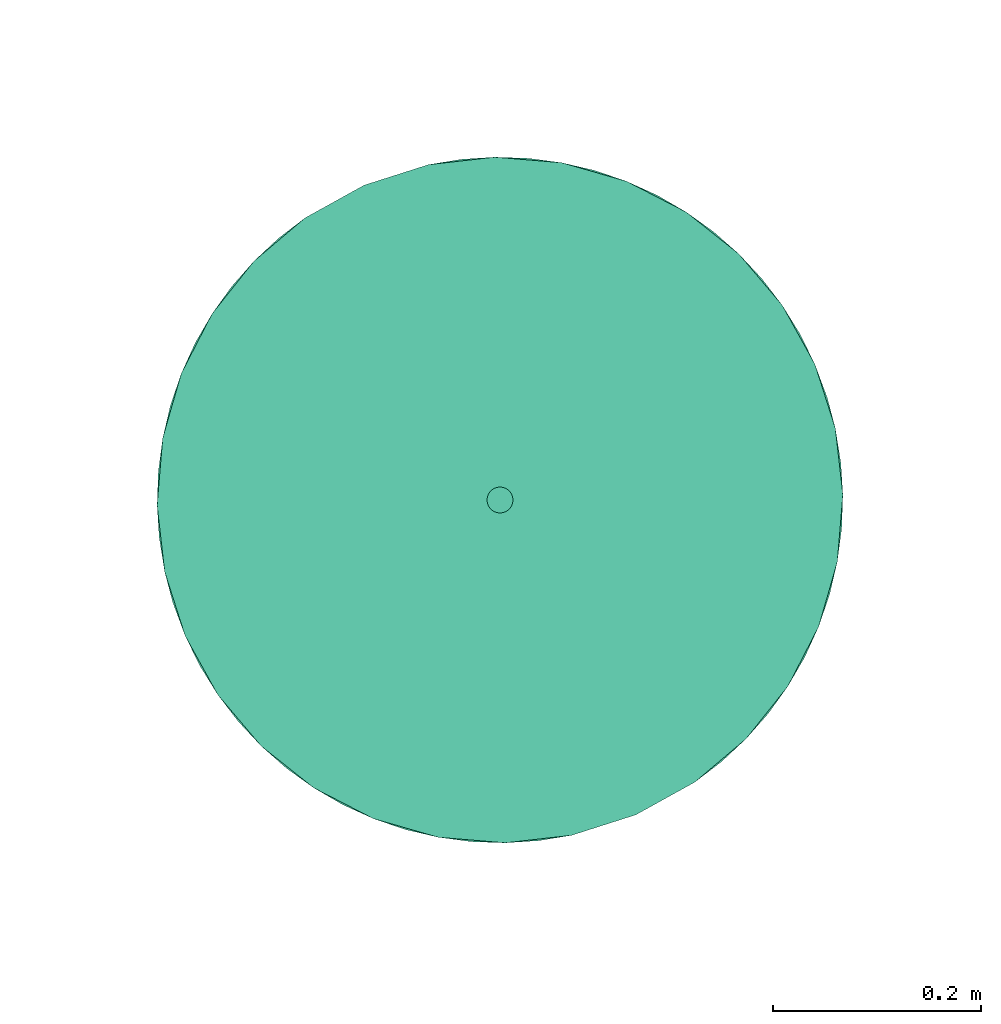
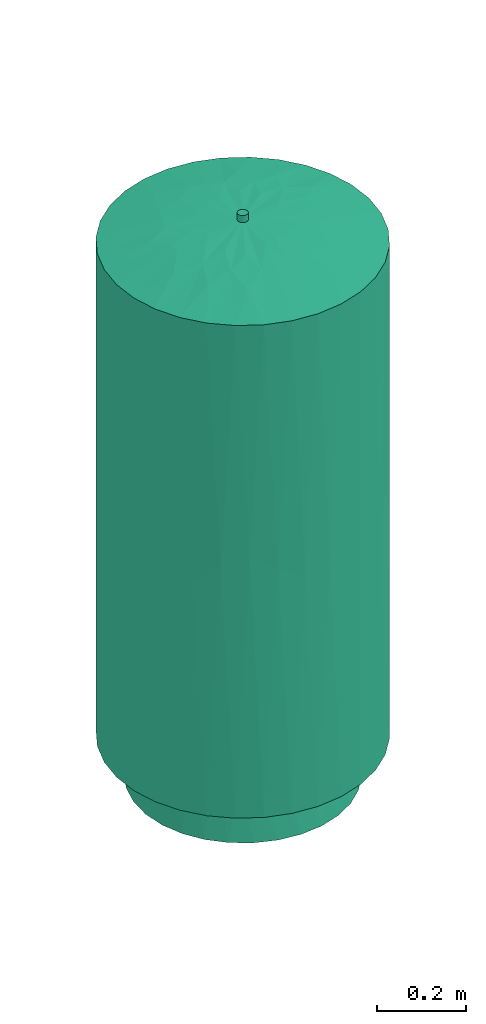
# One storey, part 25 of 26: 1 tank.
"""IFC4 building model written with IfcOpenShell, lengths in metres."""

from ifc_helpers import new_model, entity, si_unit, converted_unit, derived_unit, direction, frame, origin, place, context, subcontext, project, spatial, polygons, source, transform, mapped, material, type_object, type_shapes, element, save


model = new_model("IFC4")

# Units and contexts
model_context = context("Model", 3, precision=1e-05, world=origin(), true_north=direction((6.12323399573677e-17, 1.0)))
body_context = subcontext(model_context, "Body", "Model", "MODEL_VIEW")
ifc_project = project(units=[si_unit("LENGTHUNIT", "METRE"), si_unit("AREAUNIT", "SQUARE_METRE"), si_unit("VOLUMEUNIT", "CUBIC_METRE"), si_unit("PRESSUREUNIT", "PASCAL"), derived_unit("VOLUMETRICFLOWRATEUNIT", [(si_unit("LENGTHUNIT", "METRE", prefix="DECI"), 3), (si_unit("TIMEUNIT", "SECOND"), -1)]), converted_unit("PLANEANGLEUNIT", "DEGREE", entity("IfcPlaneAngleMeasure", 0.0174532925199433), si_unit("PLANEANGLEUNIT", "RADIAN"), dimensions=[0, 0, 0, 0, 0, 0, 0])], contexts=[model_context])

# Site, building, storey
site_placement = place(None, origin())
site = spatial("IfcSite", under=ifc_project, at=site_placement, Name="Default", CompositionType="ELEMENT")
building_placement = place(site_placement, frame((24.575451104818, -55.896759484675, 317.15), z_axis=(0.0, 0.0, 1.0), x_axis=(-0.396377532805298, 0.918087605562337, 0.0)))
building = spatial("IfcBuilding", under=site, at=building_placement, CompositionType="ELEMENT")
storey_placement = place(building_placement, origin())
storey = spatial("IfcBuildingStorey", under=building, at=storey_placement, Name="Nivel 1", CompositionType="ELEMENT", Elevation=0.0)

# Tank
ifc_material = material(Name="<Unnamed>")
tank_type = type_object("IfcTankType", Name="M_Vaso de expansión - Independiente - Vertical:452 L", PredefinedType="EXPANSION", material=ifc_material)
shared_shape = source(origin(), body_context, "Body", "Tessellation", [
    polygons([(-0.0124999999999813, -2.52483636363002e-14, 1.54155), (-0.0120740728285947, -0.00323523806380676, 1.54155), (-0.0108253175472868, -0.00625000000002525, 1.54155), (-0.0088388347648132, -0.0088388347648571, 1.54155), (-0.00624999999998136, -0.0108253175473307, 1.54155), (-0.00323523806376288, -0.0120740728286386, 1.54155), (1.86223536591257e-14, -0.0125000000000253, 1.54155), (0.00323523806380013, -0.0120740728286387, 1.54155), (0.00625000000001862, -0.0108253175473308, 1.54155), (0.00883883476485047, -0.00883883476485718, 1.54155), (0.0108253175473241, -0.00625000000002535, 1.54155), (0.012074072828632, -0.00323523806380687, 1.54155), (0.0125000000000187, -2.5288752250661e-14, 1.54155), (0.012074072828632, 0.00323523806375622, 1.54155), (0.0108253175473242, 0.00624999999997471, 1.54155), (0.00883883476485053, 0.00883883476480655, 1.54155), (0.00625000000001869, 0.0108253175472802, 1.54155), (0.0032352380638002, 0.0120740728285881, 1.54155), (1.86963777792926e-14, 0.0124999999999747, 1.54155), (-0.00323523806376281, 0.0120740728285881, 1.54155), (-0.0062499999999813, 0.0108253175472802, 1.54155), (-0.00883883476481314, 0.00883883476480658, 1.54155), (-0.0108253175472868, 0.00624999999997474, 1.54155), (-0.0120740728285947, 0.00323523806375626, 1.54155), (-0.0124999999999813, -2.52483636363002e-14, 1.5224166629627), (-0.0120740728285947, -0.00323523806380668, 1.5224166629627), (-0.0108253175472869, -0.00625000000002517, 1.5224166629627), (-0.00883883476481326, -0.00883883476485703, 1.5224166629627), (-0.00624999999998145, -0.0108253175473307, 1.5224166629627), (-0.00323523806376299, -0.0120740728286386, 1.5224166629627), (1.85106425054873e-14, -0.0125000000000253, 1.5224166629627), (0.00323523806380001, -0.0120740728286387, 1.5224166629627), (0.0062500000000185, -0.0108253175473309, 1.5224166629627), (0.00883883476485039, -0.00883883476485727, 1.5224166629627), (0.0108253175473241, -0.00625000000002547, 1.5224166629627), (0.012074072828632, -0.00323523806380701, 1.5224166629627), (0.0125000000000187, -2.53695294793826e-14, 1.5224166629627), (0.012074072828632, 0.00323523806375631, 1.5224166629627), (0.0108253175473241, 0.00624999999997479, 1.5224166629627), (0.00883883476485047, 0.00883883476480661, 1.5224166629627), (0.00625000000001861, 0.0108253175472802, 1.5224166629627), (0.00323523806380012, 0.0120740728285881, 1.5224166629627), (1.86080730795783e-14, 0.0124999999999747, 1.5224166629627), (-0.00323523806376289, 0.012074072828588, 1.5224166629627), (-0.00624999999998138, 0.0108253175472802, 1.5224166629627), (-0.00883883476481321, 0.00883883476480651, 1.5224166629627), (-0.0108253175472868, 0.00624999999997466, 1.5224166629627), (-0.0120740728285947, 0.00323523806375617, 1.5224166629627), (-0.329999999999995, -9.98519578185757e-15, 0.112500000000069), (-0.323659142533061, 0.0643798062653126, 0.11250000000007), (-0.30488024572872, 0.12628553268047, 0.112500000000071), (-0.274384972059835, 0.183338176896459, 0.112500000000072), (-0.233345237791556, 0.233345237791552, 0.112500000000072), (-0.183338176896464, 0.274384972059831, 0.112500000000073), (-0.126285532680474, 0.304880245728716, 0.112500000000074), (-0.0643798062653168, 0.323659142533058, 0.112500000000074), (5.72719588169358e-15, 0.329999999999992, 0.112500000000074), (0.0643798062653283, 0.323659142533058, 0.112500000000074), (0.126285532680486, 0.304880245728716, 0.112500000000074), (0.183338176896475, 0.274384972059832, 0.112500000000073), (0.233345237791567, 0.233345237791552, 0.112500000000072), (0.274384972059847, 0.18333817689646, 0.112500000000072), (0.304880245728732, 0.126285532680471, 0.112500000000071), (0.323659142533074, 0.0643798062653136, 0.11250000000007), (0.330000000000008, -8.91893636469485e-15, 0.112500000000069), (0.290115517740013, -8.85447077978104e-15, 0.0985185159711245), (0.24964141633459, -8.81696402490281e-15, 0.0863488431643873), (0.248072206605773, 0.027946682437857, 0.0863488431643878), (0.243383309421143, 0.055546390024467, 0.0863488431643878), (0.235633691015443, 0.0824475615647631, 0.0863488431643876), (0.224920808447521, 0.108311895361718, 0.086348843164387), (0.211379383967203, 0.132814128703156, 0.0863488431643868), (0.195179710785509, 0.155646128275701, 0.0863488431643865), (0.176525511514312, 0.176520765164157, 0.0863488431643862), (0.155651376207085, 0.19517552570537, 0.0863488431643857), (0.132819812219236, 0.211375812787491, 0.0863488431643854), (0.108317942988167, 0.224917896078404, 0.0863488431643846), (0.0824538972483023, 0.235631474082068, 0.0863488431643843), (0.0555529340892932, 0.243381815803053, 0.0863488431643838), (0.0279533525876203, 0.248071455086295, 0.0863488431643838), (2.23745092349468e-06, 0.24964141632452, 0.0863488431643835), (-0.0279489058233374, 0.248071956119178, 0.086348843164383), (-0.0555485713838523, 0.243382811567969, 0.0863488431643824), (-0.0824496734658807, 0.235632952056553, 0.0863488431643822), (-0.108313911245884, 0.224919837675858, 0.0863488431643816), (-0.132816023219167, 0.211378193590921, 0.0863488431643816), (-0.155647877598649, 0.195178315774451, 0.0863488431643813), (-0.176522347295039, 0.176523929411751, 0.0863488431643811), (-0.195176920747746, 0.155649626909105, 0.0863488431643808), (-0.211377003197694, 0.132817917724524, 0.0863488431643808), (-0.224918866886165, 0.108315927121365, 0.0863488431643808), (-0.235632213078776, 0.0824517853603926, 0.0863488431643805), (-0.24338231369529, 0.0555507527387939, 0.0863488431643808), (-0.248071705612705, 0.0279511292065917, 0.0863488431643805), (-0.249641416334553, -9.62357769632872e-15, 0.0863488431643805), (-0.290115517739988, -9.79185987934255e-15, 0.0985185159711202), (-0.0806030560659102, 0.279787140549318, 0.0988610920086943), (-0.254835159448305, 0.140843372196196, 0.0988611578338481), (-0.279786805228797, 0.0806056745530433, 0.0988612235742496), (-0.140841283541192, 0.254836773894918, 0.0988612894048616), (0.254838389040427, 0.140839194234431, 0.0988614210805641), (0.279787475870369, 0.0806004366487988, 0.0988609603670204), (0.140845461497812, 0.254833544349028, 0.0988610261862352), (0.080608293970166, 0.279786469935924, 0.0988613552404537), (-0.0162643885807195, 0.289658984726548, 0.0985184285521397), (-0.216321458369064, 0.193318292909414, 0.0985184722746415), (0.193320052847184, 0.216319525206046, 0.0985183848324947), (0.323659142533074, -0.0643798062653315, 0.112500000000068), (0.304880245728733, -0.126285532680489, 0.112500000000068), (0.274384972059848, -0.183338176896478, 0.112500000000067), (0.233345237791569, -0.233345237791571, 0.112500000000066), (0.183338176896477, -0.27438497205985, 0.112500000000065), (0.126285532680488, -0.304880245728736, 0.112500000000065), (0.0643798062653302, -0.323659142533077, 0.112500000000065), (7.4933411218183e-15, -0.330000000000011, 0.112500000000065), (-0.0643798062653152, -0.323659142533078, 0.112500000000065), (-0.126285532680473, -0.304880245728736, 0.112500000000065), (-0.183338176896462, -0.274384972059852, 0.112500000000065), (-0.233345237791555, -0.233345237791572, 0.112500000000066), (-0.274384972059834, -0.18333817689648, 0.112500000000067), (-0.304880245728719, -0.126285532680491, 0.112500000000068), (-0.323659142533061, -0.0643798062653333, 0.112500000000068), (-0.248071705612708, -0.0279511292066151, 0.0863488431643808), (-0.243382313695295, -0.0555507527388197, 0.0863488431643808), (-0.235632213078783, -0.0824517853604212, 0.0863488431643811), (-0.224918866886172, -0.108315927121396, 0.0863488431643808), (-0.211377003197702, -0.132817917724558, 0.0863488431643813), (-0.195176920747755, -0.155649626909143, 0.0863488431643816), (-0.176522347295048, -0.176523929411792, 0.0863488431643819), (-0.155647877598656, -0.195178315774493, 0.0863488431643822), (-0.132816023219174, -0.211378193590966, 0.0863488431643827), (-0.10831391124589, -0.224919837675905, 0.0863488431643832), (-0.0824496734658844, -0.235632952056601, 0.0863488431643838), (-0.0555485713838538, -0.243382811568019, 0.086348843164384), (-0.0279489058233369, -0.248071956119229, 0.0863488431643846), (2.23745092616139e-06, -0.24964141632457, 0.0863488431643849), (0.0279533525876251, -0.248071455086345, 0.0863488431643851), (0.0555529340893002, -0.243381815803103, 0.0863488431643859), (0.0824538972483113, -0.235631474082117, 0.0863488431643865), (0.108317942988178, -0.224917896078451, 0.0863488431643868), (0.132819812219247, -0.211375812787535, 0.086348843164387), (0.155651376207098, -0.195175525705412, 0.0863488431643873), (0.176525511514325, -0.176520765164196, 0.0863488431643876), (0.195179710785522, -0.155646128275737, 0.0863488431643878), (0.211379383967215, -0.132814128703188, 0.0863488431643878), (0.224920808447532, -0.108311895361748, 0.0863488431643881), (0.235633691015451, -0.0824475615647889, 0.0863488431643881), (0.243383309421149, -0.0555463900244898, 0.0863488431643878), (0.248072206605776, -0.0279466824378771, 0.0863488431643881), (0.0806082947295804, -0.279786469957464, 0.0988613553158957), (0.254838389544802, -0.140839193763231, 0.0988614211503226), (0.279787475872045, -0.0806004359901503, 0.09886096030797), (0.140845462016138, -0.254833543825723, 0.0988610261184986), (-0.140841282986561, -0.254836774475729, 0.098861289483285), (-0.0806030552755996, -0.27978714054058, 0.0988610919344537), (-0.279786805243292, -0.0806056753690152, 0.0988612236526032), (-0.254835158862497, -0.140843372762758, 0.0988611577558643), (0.016269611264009, -0.289659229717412, 0.0985186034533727), (0.216325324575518, -0.19331477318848, 0.098518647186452), (-0.216321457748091, -0.193318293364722, 0.0985184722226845), (0.330000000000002, -2.7586730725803e-14, 1.46250000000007), (0.323659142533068, 0.0643798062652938, 1.46250000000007), (0.304880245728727, 0.12628553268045, 1.46250000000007), (0.274384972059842, 0.183338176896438, 1.46250000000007), (0.233345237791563, 0.23334523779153, 1.46250000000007), (0.183338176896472, 0.274384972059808, 1.46250000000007), (0.126285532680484, 0.304880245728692, 1.46250000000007), (0.0643798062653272, 0.323659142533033, 1.46250000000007), (5.72719588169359e-15, 0.329999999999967, 1.46250000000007), (-0.0643798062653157, 0.323659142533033, 1.46250000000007), (-0.126285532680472, 0.304880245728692, 1.46250000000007), (-0.18333817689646, 0.274384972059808, 1.46250000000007), (-0.233345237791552, 0.233345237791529, 1.46250000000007), (-0.27438497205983, 0.183338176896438, 1.46250000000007), (-0.304880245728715, 0.126285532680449, 1.46250000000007), (-0.323659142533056, 0.0643798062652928, 1.46250000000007), (-0.32999999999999, -2.86529901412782e-14, 1.46250000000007), (-0.252872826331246, -2.90021778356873e-14, 1.4877522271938), (-0.173850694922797, -2.92578195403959e-14, 1.50623948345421), (-0.0935257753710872, -2.94179995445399e-14, 1.51782323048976), (0.0935257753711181, -2.91158094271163e-14, 1.51782323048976), (0.173850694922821, -2.86960924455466e-14, 1.5062394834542), (0.252872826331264, -2.81851231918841e-14, 1.48775222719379), (-0.134388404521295, 0.110289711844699, 1.50623948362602), (-0.0170403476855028, 0.173013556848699, 1.50623948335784), (0.134388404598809, 0.110289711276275, 1.50623948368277), (-0.0833779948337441, 0.155989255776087, 1.50566373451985), (0.0833779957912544, 0.155989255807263, 1.50566373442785), (-0.190538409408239, 0.0577991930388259, 1.50111168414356), (0.19053840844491, 0.0577991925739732, 1.50111168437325), (0.0155006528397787, 0.117739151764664, 1.51494810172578), (0.0241718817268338, 0.228587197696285, 1.49388385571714), (0.0516524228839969, 0.175861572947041, 1.50440795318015), (0.0349293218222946, 0.0883415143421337, 1.51767463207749), (-0.0939781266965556, 0.0389270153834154, 1.51696515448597), (-0.114215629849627, 0.0225170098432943, 1.51524406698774), (-0.162410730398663, 0.0866658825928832, 1.50424862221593), (0.0939781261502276, 0.0389270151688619, 1.51696515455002), (0.1142156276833, 0.0225170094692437, 1.51524406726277), (0.162410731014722, 0.0866658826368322, 1.50424862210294), (-0.148220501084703, 0.179877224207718, 1.49306448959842), (-0.0820068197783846, 0.1002443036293, 1.51351074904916), (-0.035256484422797, 0.115451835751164, 1.51469570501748), (-0.0657014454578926, 0.218000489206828, 1.49443133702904), (0.0724317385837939, 0.0886320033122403, 1.51548603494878), (0.137618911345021, 0.167206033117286, 1.49714550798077), (-0.323659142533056, -0.0643798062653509, 1.46250000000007), (-0.304880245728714, -0.126285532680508, 1.46250000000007), (-0.27438497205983, -0.183338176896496, 1.46250000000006), (-0.233345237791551, -0.233345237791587, 1.46250000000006), (-0.183338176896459, -0.274384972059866, 1.46250000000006), (-0.126285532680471, -0.30488024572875, 1.46250000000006), (-0.0643798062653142, -0.323659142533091, 1.46250000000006), (7.49334112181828e-15, -0.330000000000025, 1.46250000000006), (0.0643798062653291, -0.323659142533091, 1.46250000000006), (0.126285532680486, -0.304880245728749, 1.46250000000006), (0.183338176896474, -0.274384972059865, 1.46250000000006), (0.233345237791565, -0.233345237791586, 1.46250000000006), (0.274384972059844, -0.183338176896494, 1.46250000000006), (0.304880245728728, -0.126285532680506, 1.46250000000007), (0.323659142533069, -0.0643798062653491, 1.46250000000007), (0.134388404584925, -0.110289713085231, 1.50623948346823), (0.0170403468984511, -0.173013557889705, 1.5062394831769), (-0.134388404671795, -0.110289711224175, 1.50623948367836), (0.0833779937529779, -0.155989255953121, 1.50566373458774), (-0.0833779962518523, -0.155989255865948, 1.5056637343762), (0.190538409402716, -0.0577991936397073, 1.5011116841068), (-0.190538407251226, -0.0577991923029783, 1.50111168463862), (-0.015500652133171, -0.117739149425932, 1.51494810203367), (-0.0241718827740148, -0.228587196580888, 1.49388385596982), (-0.0516524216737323, -0.175861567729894, 1.50440795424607), (-0.0349293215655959, -0.088341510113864, 1.5176746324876), (0.093978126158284, -0.0389270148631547, 1.51696515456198), (0.114215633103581, -0.0225170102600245, 1.51524406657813), (0.162410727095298, -0.0866658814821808, 1.50424862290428), (-0.0939781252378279, -0.0389270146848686, 1.51696515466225), (-0.114215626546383, -0.0225170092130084, 1.51524406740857), (-0.16241073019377, -0.0866658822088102, 1.50424862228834), (0.148220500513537, -0.179877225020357, 1.49306448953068), (0.0820068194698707, -0.100244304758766, 1.51351074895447), (0.0352564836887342, -0.115451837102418, 1.51469570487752), (0.065701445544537, -0.218000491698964, 1.4944313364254), (-0.0724317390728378, -0.0886320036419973, 1.5154860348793), (-0.137618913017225, -0.167206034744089, 1.49714550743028), (-0.31579031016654, 0.095793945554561, 0.78750000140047), (-0.15556092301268, 0.291034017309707, 0.787500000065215), (-0.255093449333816, 0.209349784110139, 0.78750000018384), (-0.0323456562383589, 0.328410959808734, 0.787499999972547), (0.155560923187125, 0.291034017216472, 0.78750000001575), (0.315790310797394, 0.0957939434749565, 0.787500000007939), (0.255093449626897, 0.209349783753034, 0.787500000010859), (-0.209349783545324, 0.255093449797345, 0.826616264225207), (-0.291034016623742, 0.155560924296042, 0.748383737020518), (-0.0957939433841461, 0.315790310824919, 0.748383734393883), (0.291034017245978, 0.155560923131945, 0.826616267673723), (0.209349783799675, 0.255093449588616, 0.748383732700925), (-0.32999999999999, -1.93190929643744e-14, 0.787500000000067), (0.0344583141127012, 0.328196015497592, 0.787500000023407), (0.0968095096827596, 0.315480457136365, 0.83313564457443), (0.330000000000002, -1.82528335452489e-14, 0.787500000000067), (0.315790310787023, -0.0957939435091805, 0.787500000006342), (0.155560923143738, -0.291034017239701, 0.787500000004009), (0.255093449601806, -0.209349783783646, 0.787500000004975), (0.0323456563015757, -0.328410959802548, 0.787499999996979), (-0.155560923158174, -0.291034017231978, 0.787500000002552), (-0.315790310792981, -0.0957939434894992, 0.787500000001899), (-0.255093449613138, -0.209349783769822, 0.787500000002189), (0.209349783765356, -0.25509344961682, 0.826616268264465), (0.291034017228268, -0.155560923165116, 0.748383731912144), (0.0957939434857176, -0.315790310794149, 0.748383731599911), (-0.291034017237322, -0.155560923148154, 0.826616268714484), (-0.209349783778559, -0.255093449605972, 0.748383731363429), (-0.0344583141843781, -0.328196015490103, 0.787500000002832), (-0.0968095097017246, -0.315480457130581, 0.833135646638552), (-0.266499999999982, -2.614772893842e-14, -3.29325740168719e-14), (-0.260676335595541, 0.0554084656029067, -3.29325740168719e-14), (-0.243459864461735, 0.108395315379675, -3.29325740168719e-14), (-0.215603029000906, 0.156644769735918, -3.29325740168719e-14), (-0.178323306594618, 0.1980480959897, -3.29325740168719e-14), (-0.133249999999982, 0.230795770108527, -3.29325740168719e-14), (-0.0823530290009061, 0.253456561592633, -3.29325740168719e-14), (-0.0278568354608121, 0.26504008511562, -3.29325740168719e-14), (0.0278568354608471, 0.26504008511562, -3.29325740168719e-14), (0.0823530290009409, 0.253456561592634, -3.29325740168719e-14), (0.133250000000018, 0.230795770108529, -3.29325740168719e-14), (0.178323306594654, 0.198048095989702, -3.29325740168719e-14), (0.215603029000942, 0.15664476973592, -3.29325740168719e-14), (0.243459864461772, 0.108395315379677, -3.29325740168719e-14), (0.260676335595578, 0.0554084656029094, -3.29325740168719e-14), (0.266500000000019, -2.52866436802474e-14, -3.29325740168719e-14), (0.260676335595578, -0.0554084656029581, -3.29325740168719e-14), (0.243459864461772, -0.108395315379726, -3.29325740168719e-14), (0.215603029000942, -0.156644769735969, -3.29325740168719e-14), (0.178323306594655, -0.198048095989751, -3.29325740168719e-14), (0.133250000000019, -0.230795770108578, -3.29325740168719e-14), (0.0823530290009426, -0.253456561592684, -3.29325740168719e-14), (0.0278568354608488, -0.26504008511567, -3.29325740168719e-14), (-0.0278568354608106, -0.265040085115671, -3.29325740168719e-14), (-0.0823530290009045, -0.253456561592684, -3.29325740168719e-14), (-0.133249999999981, -0.230795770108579, -3.29325740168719e-14), (-0.178323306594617, -0.198048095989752, -3.29325740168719e-14), (-0.215603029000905, -0.15664476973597, -3.29325740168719e-14), (-0.243459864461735, -0.108395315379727, -3.29325740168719e-14), (-0.260676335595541, -0.055408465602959, -3.29325740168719e-14)], [[[8, 9, 10, 11, 12, 13, 14, 15, 16, 17, 18, 19, 20, 21, 22, 23, 24, 1, 2, 3, 4, 5, 6, 7]], [[26, 27, 3, 2]], [[25, 26, 2, 1]], [[29, 30, 6, 5]], [[28, 29, 5, 4]], [[27, 28, 4, 3]], [[7, 6, 30, 31]], [[33, 34, 10, 9]], [[32, 33, 9, 8]], [[36, 37, 13, 12]], [[35, 36, 12, 11]], [[34, 35, 11, 10]], [[32, 8, 7, 31]], [[38, 39, 15, 14]], [[37, 38, 14, 13]], [[41, 42, 18, 17]], [[40, 41, 17, 16]], [[39, 40, 16, 15]], [[19, 18, 42, 43]], [[22, 21, 45, 46]], [[21, 20, 44, 45]], [[24, 23, 47, 48]], [[46, 47, 23, 22]], [[1, 24, 48, 25]], [[44, 20, 19, 43]], [[92, 93, 99]], [[52, 53, 106]], [[96, 49, 50]], [[96, 50, 99]], [[106, 98, 52]], [[57, 105, 56]], [[105, 97, 56]], [[100, 85, 86]], [[105, 83, 97]], [[103, 104, 59]], [[100, 106, 54]], [[105, 81, 82]], [[84, 97, 83]], [[99, 98, 91, 92]], [[91, 98, 90]], [[94, 95, 96]], [[94, 96, 99]], [[61, 62, 107]], [[99, 93, 94]], [[105, 82, 83]], [[87, 100, 86]], [[100, 97, 84, 85]], [[57, 58, 105]], [[106, 89, 90]], [[88, 89, 106]], [[88, 106, 87]], [[53, 54, 106]], [[107, 75, 76]], [[100, 87, 106]], [[106, 90, 98]], [[58, 59, 104]], [[60, 107, 103]], [[107, 62, 101]], [[79, 104, 78]], [[61, 107, 60]], [[101, 72, 73]], [[101, 71, 72]], [[64, 66, 102]], [[66, 64, 65]], [[69, 70, 102]], [[66, 68, 102]], [[102, 68, 69]], [[71, 101, 102, 70]], [[55, 56, 97]], [[101, 63, 102]], [[104, 103, 77, 78]], [[77, 103, 76]], [[63, 64, 102]], [[105, 80, 81]], [[104, 80, 105]], [[62, 63, 101]], [[80, 104, 79]], [[51, 52, 98]], [[67, 68, 66]], [[50, 51, 99]], [[98, 99, 51]], [[74, 75, 107]], [[74, 107, 73]], [[54, 55, 100]], [[97, 100, 55]], [[101, 73, 107]], [[107, 76, 103]], [[59, 60, 103]], [[58, 104, 105]], [[147, 148, 152]], [[110, 111, 159]], [[66, 65, 108]], [[66, 108, 152]], [[111, 112, 159]], [[140, 141, 153]], [[115, 158, 114]], [[120, 121, 157]], [[150, 158, 138]], [[136, 137, 158]], [[156, 157, 121]], [[115, 116, 158]], [[153, 159, 112]], [[139, 150, 138]], [[151, 146, 147, 152]], [[146, 151, 145]], [[149, 67, 66]], [[149, 66, 152]], [[160, 119, 120]], [[152, 148, 149]], [[138, 158, 137]], [[142, 153, 141]], [[150, 139, 140, 153]], [[114, 158, 150]], [[145, 159, 144]], [[144, 159, 143]], [[143, 159, 142]], [[110, 159, 151]], [[130, 160, 129]], [[153, 142, 159]], [[159, 145, 151]], [[121, 122, 156]], [[118, 160, 154]], [[160, 118, 119]], [[133, 134, 155]], [[116, 155, 158]], [[120, 157, 160]], [[156, 122, 96]], [[96, 122, 49]], [[123, 96, 95]], [[123, 156, 96]], [[157, 126, 127]], [[124, 156, 123]], [[150, 153, 113]], [[132, 154, 131]], [[131, 154, 130]], [[155, 154, 132, 133]], [[117, 118, 154]], [[155, 135, 158]], [[135, 155, 134]], [[116, 117, 155]], [[112, 113, 153]], [[113, 114, 150]], [[156, 125, 126, 157]], [[125, 156, 124]], [[109, 110, 151]], [[128, 129, 160]], [[127, 160, 157]], [[108, 109, 152]], [[151, 152, 109]], [[160, 127, 128]], [[160, 130, 154]], [[154, 155, 117]], [[135, 136, 158]], [[48, 196, 25]], [[182, 199, 181]], [[195, 196, 48]], [[186, 198, 200]], [[189, 175, 176]], [[200, 190, 163]], [[203, 44, 43]], [[195, 184, 197]], [[202, 187, 201]], [[200, 198, 190]], [[38, 37, 199]], [[187, 202, 45]], [[195, 197, 189]], [[174, 197, 184]], [[38, 199, 198]], [[43, 185, 203]], [[189, 178, 179]], [[176, 178, 189]], [[195, 48, 47]], [[176, 177, 178]], [[41, 40, 205]], [[172, 201, 187]], [[47, 46, 184]], [[172, 187, 171]], [[43, 42, 191]], [[174, 175, 197]], [[184, 173, 174]], [[39, 38, 198]], [[45, 44, 203]], [[201, 173, 184]], [[204, 187, 203]], [[197, 175, 189]], [[185, 169, 170]], [[202, 201, 184]], [[193, 194, 188]], [[179, 196, 189]], [[205, 40, 186]], [[168, 193, 167]], [[169, 192, 168]], [[164, 165, 186]], [[37, 181, 199]], [[190, 198, 199]], [[183, 190, 182]], [[205, 194, 41]], [[42, 41, 194]], [[199, 182, 190]], [[184, 195, 47]], [[198, 186, 39]], [[196, 195, 189]], [[190, 183, 162]], [[40, 39, 186]], [[192, 169, 185]], [[172, 173, 201]], [[166, 167, 188]], [[192, 185, 191]], [[168, 192, 193]], [[163, 164, 200]], [[206, 166, 188]], [[162, 163, 190]], [[162, 183, 161]], [[193, 192, 191]], [[191, 194, 193]], [[164, 186, 200]], [[196, 179, 180]], [[205, 206, 188]], [[171, 187, 204]], [[167, 193, 188]], [[191, 185, 43]], [[196, 180, 25]], [[194, 191, 42]], [[184, 46, 202]], [[45, 202, 46]], [[204, 203, 185]], [[45, 203, 187]], [[185, 170, 204]], [[171, 204, 170]], [[206, 205, 186]], [[205, 188, 194]], [[186, 165, 206]], [[166, 206, 165]], [[36, 234, 37]], [[179, 237, 180]], [[233, 234, 36]], [[224, 236, 238]], [[227, 220, 221]], [[238, 228, 208]], [[33, 225, 240]], [[26, 25, 237]], [[31, 241, 32]], [[225, 239, 240]], [[233, 222, 235]], [[235, 227, 233]], [[219, 235, 222]], [[238, 236, 228]], [[26, 237, 236]], [[31, 223, 241]], [[227, 183, 182]], [[221, 183, 227]], [[217, 218, 239]], [[221, 161, 183]], [[28, 27, 224]], [[217, 239, 225]], [[235, 220, 227]], [[222, 218, 219]], [[31, 30, 229]], [[35, 34, 222]], [[217, 225, 216]], [[216, 225, 242]], [[218, 222, 239]], [[219, 220, 235]], [[242, 225, 241]], [[27, 26, 236]], [[223, 214, 215]], [[240, 239, 222]], [[232, 226, 231]], [[213, 231, 212]], [[210, 224, 209]], [[228, 236, 237]], [[214, 230, 213]], [[28, 224, 243]], [[25, 180, 237]], [[233, 36, 35]], [[178, 228, 179]], [[234, 233, 227]], [[222, 233, 35]], [[237, 179, 228]], [[182, 234, 227]], [[236, 224, 27]], [[212, 231, 226]], [[228, 178, 207]], [[213, 230, 231]], [[230, 214, 223]], [[29, 28, 243]], [[211, 212, 226]], [[230, 223, 229]], [[234, 182, 181]], [[208, 209, 238]], [[211, 226, 244]], [[207, 208, 228]], [[238, 209, 224]], [[232, 229, 30]], [[231, 230, 229]], [[243, 244, 226]], [[229, 232, 231]], [[178, 177, 207]], [[33, 32, 241]], [[243, 232, 29]], [[229, 223, 31]], [[234, 181, 37]], [[30, 29, 232]], [[222, 34, 240]], [[33, 240, 34]], [[242, 241, 223]], [[33, 241, 225]], [[223, 215, 242]], [[216, 242, 215]], [[244, 243, 224]], [[243, 226, 232]], [[224, 210, 244]], [[211, 244, 210]], [[176, 175, 245]], [[54, 246, 55]], [[257, 176, 245]], [[50, 245, 51]], [[247, 253, 174]], [[172, 171, 246]], [[260, 162, 161]], [[65, 64, 260]], [[172, 246, 252]], [[247, 174, 173]], [[248, 254, 170]], [[175, 174, 253]], [[50, 49, 257]], [[176, 257, 177]], [[171, 170, 254]], [[245, 253, 51]], [[52, 247, 53]], [[169, 168, 258]], [[52, 253, 247]], [[252, 54, 53]], [[53, 247, 252]], [[59, 249, 60]], [[246, 254, 55]], [[166, 165, 256]], [[56, 254, 248]], [[170, 169, 248]], [[248, 57, 56]], [[173, 172, 252]], [[249, 167, 166]], [[50, 257, 245]], [[167, 249, 259]], [[168, 167, 259]], [[251, 256, 165]], [[169, 258, 248]], [[163, 162, 250]], [[63, 255, 250]], [[163, 250, 255]], [[60, 256, 61]], [[251, 165, 164]], [[164, 255, 251]], [[256, 249, 166]], [[64, 250, 260]], [[57, 248, 258]], [[58, 57, 258]], [[61, 251, 62]], [[259, 59, 58]], [[58, 258, 259]], [[164, 163, 255]], [[173, 252, 247]], [[60, 249, 256]], [[251, 61, 256]], [[62, 255, 63]], [[55, 254, 56]], [[253, 245, 175]], [[62, 251, 255]], [[51, 253, 52]], [[162, 260, 250]], [[54, 252, 246]], [[254, 246, 171]], [[59, 259, 249]], [[168, 259, 258]], [[63, 250, 64]], [[261, 221, 220]], [[49, 122, 257]], [[257, 207, 177]], [[108, 260, 261]], [[263, 269, 219]], [[217, 216, 262]], [[213, 212, 274]], [[217, 262, 268]], [[213, 274, 273]], [[263, 219, 218]], [[117, 274, 265]], [[216, 215, 270]], [[220, 219, 269]], [[260, 221, 261]], [[215, 264, 270]], [[214, 273, 264]], [[261, 269, 109]], [[108, 261, 109]], [[218, 217, 268]], [[110, 269, 263]], [[268, 112, 111]], [[111, 263, 268]], [[214, 213, 273]], [[215, 214, 264]], [[262, 270, 113]], [[110, 263, 111]], [[114, 270, 264]], [[112, 262, 113]], [[264, 115, 114]], [[265, 212, 211]], [[209, 271, 267]], [[212, 265, 274]], [[272, 265, 211]], [[267, 272, 210]], [[118, 272, 119]], [[208, 207, 266]], [[269, 261, 220]], [[208, 266, 271]], [[216, 270, 262]], [[267, 210, 209]], [[113, 270, 114]], [[121, 271, 266]], [[122, 266, 257]], [[115, 264, 273]], [[116, 115, 273]], [[274, 117, 116]], [[116, 273, 274]], [[117, 265, 118]], [[209, 208, 271]], [[118, 265, 272]], [[267, 119, 272]], [[120, 271, 121]], [[218, 268, 263]], [[112, 268, 262]], [[120, 267, 271]], [[119, 267, 120]], [[207, 257, 266]], [[121, 266, 122]], [[109, 269, 110]], [[260, 108, 65]], [[161, 221, 260]], [[211, 210, 272]], [[285, 286, 287, 288, 289, 290, 291, 292, 293, 294, 295, 296, 297, 298, 299, 300, 301, 302, 303, 304, 275, 276, 277, 278, 279, 280, 281, 282, 283, 284]], [[89, 88, 278]], [[91, 90, 277]], [[92, 91, 277]], [[89, 278, 90]], [[83, 82, 282]], [[84, 83, 281]], [[86, 85, 280]], [[87, 86, 280]], [[84, 281, 85]], [[88, 87, 279]], [[94, 93, 276]], [[95, 94, 275]], [[275, 94, 276]], [[92, 276, 93]], [[279, 278, 88]], [[87, 280, 279]], [[276, 92, 277]], [[278, 277, 90]], [[85, 281, 280]], [[83, 282, 281]], [[82, 81, 282]], [[81, 80, 283]], [[78, 284, 79]], [[80, 79, 283]], [[77, 284, 78]], [[285, 76, 75]], [[285, 77, 76]], [[72, 71, 288]], [[73, 72, 287]], [[74, 73, 287]], [[286, 75, 74]], [[283, 79, 284]], [[284, 77, 285]], [[72, 288, 287]], [[74, 287, 286]], [[285, 75, 286]], [[69, 68, 289]], [[70, 69, 289]], [[68, 290, 289]], [[290, 68, 67]], [[70, 289, 288]], [[70, 288, 71]], [[81, 283, 282]], [[144, 143, 293]], [[146, 145, 292]], [[147, 146, 292]], [[144, 293, 145]], [[138, 137, 297]], [[139, 138, 296]], [[141, 140, 295]], [[142, 141, 295]], [[139, 296, 140]], [[143, 142, 294]], [[149, 148, 291]], [[67, 149, 290]], [[290, 149, 291]], [[147, 291, 148]], [[294, 293, 143]], [[142, 295, 294]], [[291, 147, 292]], [[293, 292, 145]], [[140, 296, 295]], [[138, 297, 296]], [[137, 136, 297]], [[136, 135, 298]], [[133, 299, 134]], [[135, 134, 298]], [[132, 299, 133]], [[300, 131, 130]], [[300, 132, 131]], [[127, 126, 303]], [[128, 127, 302]], [[129, 128, 302]], [[301, 130, 129]], [[298, 134, 299]], [[299, 132, 300]], [[127, 303, 302]], [[129, 302, 301]], [[300, 130, 301]], [[124, 123, 304]], [[125, 124, 304]], [[123, 275, 304]], [[275, 123, 95]], [[125, 304, 303]], [[125, 303, 126]], [[136, 298, 297]]], closed=True),
])
type_shapes(tank_type, [shared_shape])
tank_placement = place(storey_placement, frame((-7.05272276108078, 55.1406017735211, 0.0)))
element("IfcTank", 1, at=tank_placement, inside=storey, type_object=tank_type, material=ifc_material, Name="M_Vaso de expansión - Independiente - Vertical:452 L", ObjectType="M_Vaso de expansión - Independiente - Vertical:452 L", PredefinedType="EXPANSION", context=body_context, shape_type="MappedRepresentation", body=[
    mapped(shared_shape, transform((0.0, 0.0, 0.0), scale=1.0)),
])

save(model, "model.ifc")
